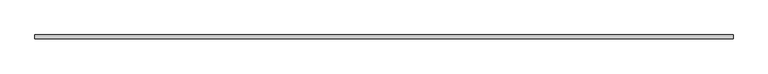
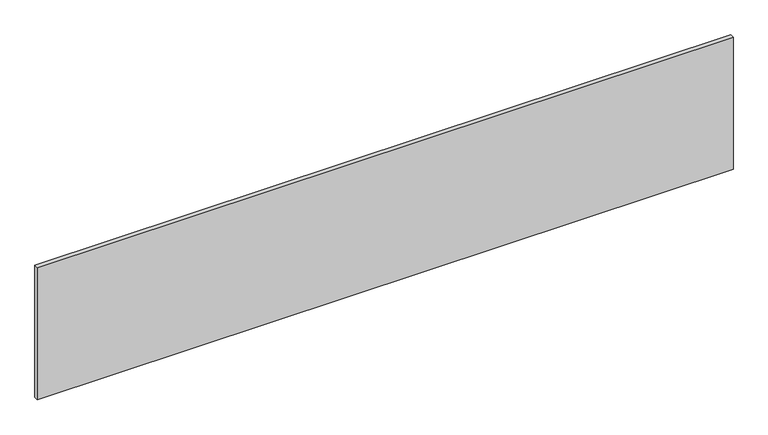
"""IFC4 building model written with IfcOpenShell, lengths in millimetres: plate geometry, Curtain-Panels_Outdoor-Material_HI-MACS_Solids : S006_Artic-White_20mm."""

from ifc_helpers import new_model, si_unit, origin, origin_with_axes, place, context, project, spatial, polyline, outline, extrude, source, transform, mapped, element, save


def plate_eaecce36(model_context):
    return source(origin(), model_context, "Body", "SweptSolid", [
        extrude(outline(polyline([(1840.0, 10.0), (1840.0, -10.0), (-1840.0, -10.0), (-1840.0, 10.0), (1840.0, 10.0)])), origin_with_axes(), (0.0, 0.0, 1.0), 738.1288393),
    ])


if __name__ == "__main__":
    model = new_model("IFC4")
    model_context = context("Model", 3, world=origin())
    ifc_project = project(units=[si_unit("LENGTHUNIT", "METRE", prefix="MILLI")], contexts=[model_context])
    site = spatial("IfcSite", under=ifc_project)
    building = spatial("IfcBuilding", under=site)
    placement = place(None, origin())
    plate_shape = plate_eaecce36(model_context)
    element("IfcPlate", 1, ObjectType="Curtain-Panels_Outdoor-Material_HI-MACS_Solids : S006_Artic-White_20mm", at=placement, inside=building, context=model_context, shape_type="MappedRepresentation", body=[
        mapped(plate_shape, transform((0.0, 0.0, 0.0), x_axis=(1.0, 0.0, 0.0), y_axis=(0.0, 1.0, 0.0), z_axis=(0.0, 0.0, 1.0))),
    ])
    save(model, "model.ifc")
